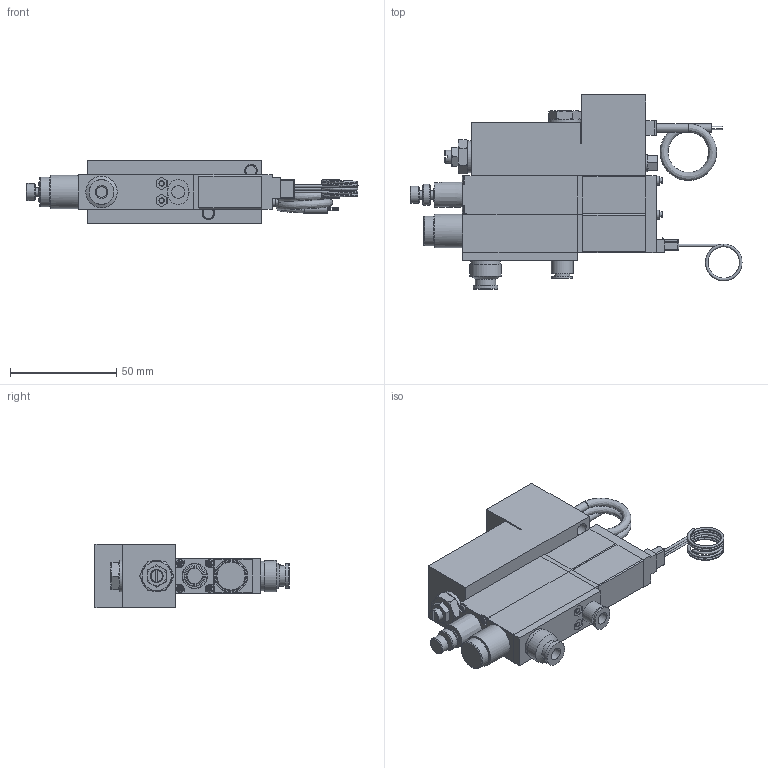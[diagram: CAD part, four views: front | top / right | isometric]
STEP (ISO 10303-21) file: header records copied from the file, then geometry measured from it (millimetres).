
FILE_DESCRIPTION(/* description */ (''),/* implementation_level */ '2;1');
FILE_NAME(/* name */ 'I:\3D mis en ligne\Accessoire pneumatique - hydraulique\Generateur de vide\GEN_21_101_simpl.stp',/* time_stamp */ '2019-03-15T08:14:35+01:00',/* author */ ('BT-TEMP'),/* organization */ (''),/* preprocessor_version */ 'ST-DEVELOPER v16.13',/* originating_system */ 'Autodesk Inventor 2018',/* authorisation */ '');
FILE_SCHEMA (('AUTOMOTIVE_DESIGN { 1 0 10303 214 3 1 1 }'));
Length unit declared in the file: millimetre
Products named in the file (1): GEN_21_101_simpl
Bounding box: 156 x 91.22 x 30 mm (x, y, z)
Volume: 140492.7 mm3; surface area: 30359.2 mm2
Topology: 1 solids, 1 shells, 691 faces, 1684 edges, 1058 vertices
Faces by surface type: plane 496, cylinder 111, cone 56, torus 16, bspline 6, sphere 6
Full cylindrical faces by diameter (mm): 0.4 x3, 1.2 x3, 2.5 x4, 3.3 x4, 3.8 x2, 4 x2, 4.134 x1, 4.2 x2, 5 x3, 5.2 x2, 5.5 x2, 6 x5, 7 x1, 8 x2, 9 x1, 9.5 x1, 10 x1, 10.2 x1, 11.7 x1, 13.9 x1, 14 x1, 14.78 x1, 15 x3, 15.6 x1
Entity records: 21868 total; most frequent: CARTESIAN_POINT 5204, DIRECTION 3196, ORIENTED_EDGE 3192, EDGE_CURVE 1580, AXIS2_PLACEMENT_3D 1071, LINE 1054, VECTOR 1054, VERTEX_POINT 1034
